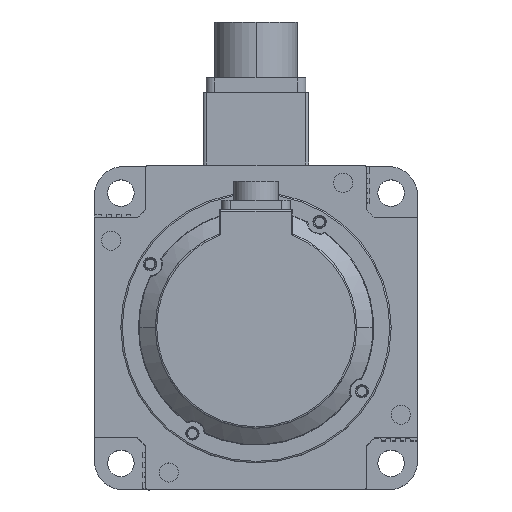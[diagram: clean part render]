
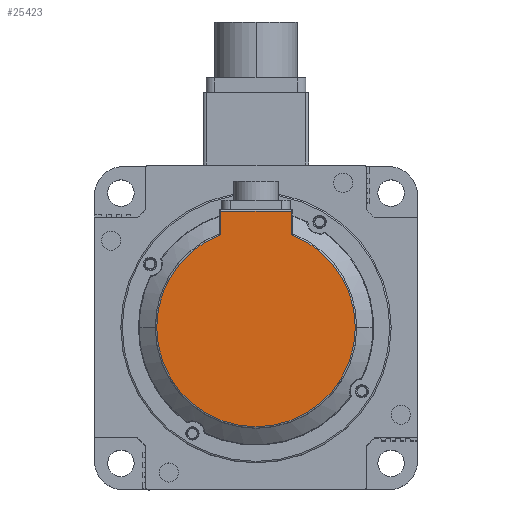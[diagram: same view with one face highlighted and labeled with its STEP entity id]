
A CAD part, top view. The second image highlights one B-rep face of the part: STEP entity #25423.
In plain terms, the highlighted planar face has unit normal (0, 0, 1).
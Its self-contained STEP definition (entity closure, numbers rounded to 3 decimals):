
#93 = CARTESIAN_POINT ( 'NONE',  ( -33.78, 0., 45. ) ) ;
#921 = DIRECTION ( 'NONE',  ( 0., 0., 1. ) ) ;
#1912 = CARTESIAN_POINT ( 'NONE',  ( 12., 39.5, 45. ) ) ;
#3178 = DIRECTION ( 'NONE',  ( 0., 1., 0. ) ) ;
#3649 = CIRCLE ( 'NONE', #18302, 33.78 ) ;
#5018 = DIRECTION ( 'NONE',  ( 0., 0., 1. ) ) ;
#5190 = CARTESIAN_POINT ( 'NONE',  ( -12., 39.5, 45. ) ) ;
#6606 = CARTESIAN_POINT ( 'NONE',  ( 0., 0., 45. ) ) ;
#6782 = PLANE ( 'NONE',  #16268 ) ;
#7425 = AXIS2_PLACEMENT_3D ( 'NONE', #18951, #10825, #12818 ) ;
#7566 = ORIENTED_EDGE ( 'NONE', *, *, #9549, .T. ) ;
#7758 = AXIS2_PLACEMENT_3D ( 'NONE', #8860, #921, #18984 ) ;
#7763 = LINE ( 'NONE', #20512, #23142 ) ;
#8312 = ORIENTED_EDGE ( 'NONE', *, *, #25899, .T. ) ;
#8836 = CARTESIAN_POINT ( 'NONE',  ( 12., 0., 45. ) ) ;
#8860 = CARTESIAN_POINT ( 'NONE',  ( 0., 0., 45. ) ) ;
#8942 = CARTESIAN_POINT ( 'NONE',  ( 0., 0., 45. ) ) ;
#9078 = EDGE_CURVE ( 'NONE', #20690, #17496, #3649, .T. ) ;
#9549 = EDGE_CURVE ( 'NONE', #15743, #12101, #23374, .T. ) ;
#10011 = CIRCLE ( 'NONE', #7758, 33.78 ) ;
#10759 = ORIENTED_EDGE ( 'NONE', *, *, #17597, .T. ) ;
#10825 = DIRECTION ( 'NONE',  ( 0., 0., 1. ) ) ;
#11453 = CARTESIAN_POINT ( 'NONE',  ( -12., 31.576, 45. ) ) ;
#11774 = CARTESIAN_POINT ( 'NONE',  ( 12., 31.576, 45. ) ) ;
#11783 = EDGE_CURVE ( 'NONE', #12101, #19552, #13154, .T. ) ;
#12101 = VERTEX_POINT ( 'NONE', #1912 ) ;
#12641 = VECTOR ( 'NONE', #3178, 1000. ) ;
#12818 = DIRECTION ( 'NONE',  ( 1., 0., 0. ) ) ;
#13154 = LINE ( 'NONE', #22386, #14417 ) ;
#14417 = VECTOR ( 'NONE', #14562, 1000. ) ;
#14562 = DIRECTION ( 'NONE',  ( -1., 0., 0. ) ) ;
#14955 = DIRECTION ( 'NONE',  ( 1., 0., 0. ) ) ;
#15743 = VERTEX_POINT ( 'NONE', #11774 ) ;
#15764 = ORIENTED_EDGE ( 'NONE', *, *, #11783, .T. ) ;
#16268 = AXIS2_PLACEMENT_3D ( 'NONE', #6606, #16693, #16617 ) ;
#16483 = EDGE_CURVE ( 'NONE', #17496, #21259, #10011, .T. ) ;
#16617 = DIRECTION ( 'NONE',  ( 1., 0., 0. ) ) ;
#16693 = DIRECTION ( 'NONE',  ( 0., 0., 1. ) ) ;
#17496 = VERTEX_POINT ( 'NONE', #93 ) ;
#17597 = EDGE_CURVE ( 'NONE', #19552, #20690, #7763, .T. ) ;
#18302 = AXIS2_PLACEMENT_3D ( 'NONE', #8942, #5018, #14955 ) ;
#18320 = EDGE_LOOP ( 'NONE', ( #15764, #10759, #25455, #21029, #8312, #7566 ) ) ;
#18392 = DIRECTION ( 'NONE',  ( 0., -1., 0. ) ) ;
#18951 = CARTESIAN_POINT ( 'NONE',  ( 0., 0., 45. ) ) ;
#18984 = DIRECTION ( 'NONE',  ( 1., 0., 0. ) ) ;
#19552 = VERTEX_POINT ( 'NONE', #5190 ) ;
#20367 = CIRCLE ( 'NONE', #7425, 33.78 ) ;
#20512 = CARTESIAN_POINT ( 'NONE',  ( -12., 0., 45. ) ) ;
#20690 = VERTEX_POINT ( 'NONE', #11453 ) ;
#21029 = ORIENTED_EDGE ( 'NONE', *, *, #16483, .T. ) ;
#21259 = VERTEX_POINT ( 'NONE', #25210 ) ;
#22299 = FACE_OUTER_BOUND ( 'NONE', #18320, .T. ) ;
#22386 = CARTESIAN_POINT ( 'NONE',  ( -12.5, 39.5, 45. ) ) ;
#23142 = VECTOR ( 'NONE', #18392, 1000. ) ;
#23374 = LINE ( 'NONE', #8836, #12641 ) ;
#25210 = CARTESIAN_POINT ( 'NONE',  ( 33.78, 0., 45. ) ) ;
#25423 = ADVANCED_FACE ( 'NONE', ( #22299 ), #6782, .T. ) ;
#25455 = ORIENTED_EDGE ( 'NONE', *, *, #9078, .T. ) ;
#25899 = EDGE_CURVE ( 'NONE', #21259, #15743, #20367, .T. ) ;
